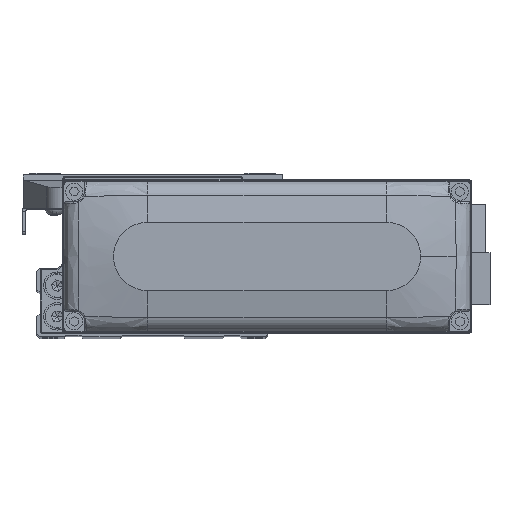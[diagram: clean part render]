
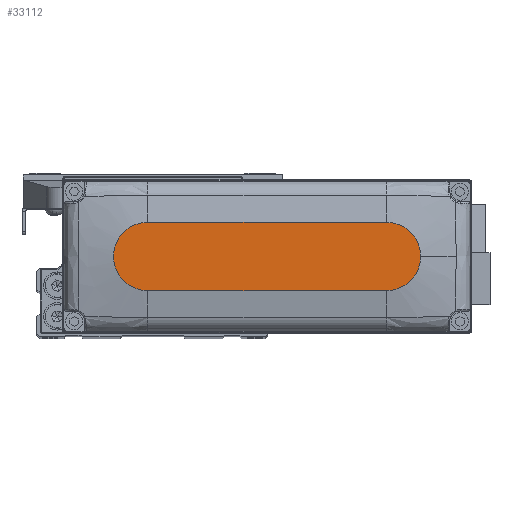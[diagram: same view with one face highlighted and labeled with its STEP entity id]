
A CAD part, top view. The second image highlights one B-rep face of the part: STEP entity #33112.
In plain terms, the highlighted planar face has unit normal (0, 0, 1).
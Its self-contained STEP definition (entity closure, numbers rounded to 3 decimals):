
#230 = EDGE_CURVE ( 'NONE', #5967, #15809, #37218, .T. ) ;
#2807 = DIRECTION ( 'NONE',  ( 0., 0., 1. ) ) ;
#3335 = CARTESIAN_POINT ( 'NONE',  ( -35., -10., 28. ) ) ;
#4261 = DIRECTION ( 'NONE',  ( 1., 0., 0. ) ) ;
#4914 = VECTOR ( 'NONE', #20614, 1000. ) ;
#5049 = EDGE_CURVE ( 'NONE', #15670, #5967, #26558, .T. ) ;
#5383 = VERTEX_POINT ( 'NONE', #12732 ) ;
#5883 = DIRECTION ( 'NONE',  ( 0., 0., 1. ) ) ;
#5967 = VERTEX_POINT ( 'NONE', #40593 ) ;
#6105 = FACE_OUTER_BOUND ( 'NONE', #8552, .T. ) ;
#7302 = CARTESIAN_POINT ( 'NONE',  ( -35., 10., 28. ) ) ;
#7728 = AXIS2_PLACEMENT_3D ( 'NONE', #26959, #40282, #10367 ) ;
#8552 = EDGE_LOOP ( 'NONE', ( #43009, #41864, #39471, #13364, #35353 ) ) ;
#10367 = DIRECTION ( 'NONE',  ( 1., 0., 0. ) ) ;
#10544 = CARTESIAN_POINT ( 'NONE',  ( -35., 10., 28. ) ) ;
#10664 = EDGE_CURVE ( 'NONE', #5383, #15670, #16054, .T. ) ;
#10842 = AXIS2_PLACEMENT_3D ( 'NONE', #32741, #2807, #16129 ) ;
#11059 = CIRCLE ( 'NONE', #35474, 10. ) ;
#12061 = VECTOR ( 'NONE', #16658, 1000. ) ;
#12732 = CARTESIAN_POINT ( 'NONE',  ( 35., -10., 28. ) ) ;
#13364 = ORIENTED_EDGE ( 'NONE', *, *, #10664, .T. ) ;
#15670 = VERTEX_POINT ( 'NONE', #19079 ) ;
#15809 = VERTEX_POINT ( 'NONE', #10544 ) ;
#16054 = CIRCLE ( 'NONE', #40453, 10. ) ;
#16129 = DIRECTION ( 'NONE',  ( 1., 0., 0. ) ) ;
#16658 = DIRECTION ( 'NONE',  ( 1., 0., 0. ) ) ;
#17885 = CARTESIAN_POINT ( 'NONE',  ( -35., -10., 28. ) ) ;
#19079 = CARTESIAN_POINT ( 'NONE',  ( 45., 0., 28. ) ) ;
#19186 = DIRECTION ( 'NONE',  ( 1., 0., 0. ) ) ;
#19409 = PLANE ( 'NONE',  #10842 ) ;
#20400 = EDGE_CURVE ( 'NONE', #27812, #5383, #33264, .T. ) ;
#20614 = DIRECTION ( 'NONE',  ( -1., 0., 0. ) ) ;
#20847 = CARTESIAN_POINT ( 'NONE',  ( -35., 0., 28. ) ) ;
#26558 = CIRCLE ( 'NONE', #7728, 10. ) ;
#26959 = CARTESIAN_POINT ( 'NONE',  ( 35., 0., 28. ) ) ;
#27812 = VERTEX_POINT ( 'NONE', #17885 ) ;
#32741 = CARTESIAN_POINT ( 'NONE',  ( 0., 0., 28. ) ) ;
#33112 = ADVANCED_FACE ( 'NONE', ( #6105 ), #19409, .T. ) ;
#33264 = LINE ( 'NONE', #3335, #12061 ) ;
#34180 = DIRECTION ( 'NONE',  ( 0., 0., 1. ) ) ;
#35353 = ORIENTED_EDGE ( 'NONE', *, *, #5049, .T. ) ;
#35474 = AXIS2_PLACEMENT_3D ( 'NONE', #20847, #34180, #4261 ) ;
#35778 = CARTESIAN_POINT ( 'NONE',  ( 35., 0., 28. ) ) ;
#36222 = EDGE_CURVE ( 'NONE', #15809, #27812, #11059, .T. ) ;
#37218 = LINE ( 'NONE', #7302, #4914 ) ;
#39471 = ORIENTED_EDGE ( 'NONE', *, *, #20400, .T. ) ;
#40282 = DIRECTION ( 'NONE',  ( 0., 0., 1. ) ) ;
#40453 = AXIS2_PLACEMENT_3D ( 'NONE', #35778, #5883, #19186 ) ;
#40593 = CARTESIAN_POINT ( 'NONE',  ( 35., 10., 28. ) ) ;
#41864 = ORIENTED_EDGE ( 'NONE', *, *, #36222, .T. ) ;
#43009 = ORIENTED_EDGE ( 'NONE', *, *, #230, .T. ) ;
